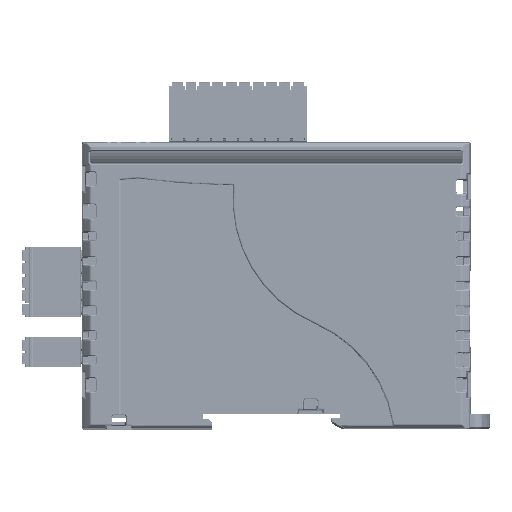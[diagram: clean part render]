
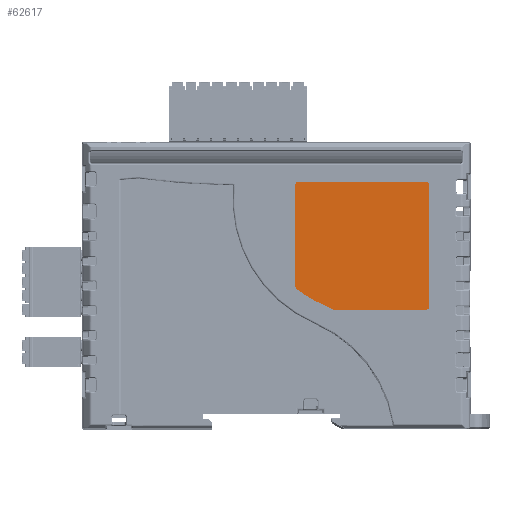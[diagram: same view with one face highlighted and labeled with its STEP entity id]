
A CAD part, front view. The second image highlights one B-rep face of the part: STEP entity #62617.
In plain terms, the highlighted planar face has unit normal (0, -1, 0).
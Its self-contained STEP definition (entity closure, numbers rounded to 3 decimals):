
#29918=DIRECTION('',(-1.,0.,0.));
#29919=VECTOR('',#29918,33.354);
#29920=CARTESIAN_POINT('',(39.177,-16.2,27.174));
#29921=LINE('',#29920,#29919);
#29939=DIRECTION('',(0.,0.,1.));
#29940=VECTOR('',#29939,31.83);
#29941=CARTESIAN_POINT('',(39.974,-16.2,-5.453));
#29942=LINE('',#29941,#29940);
#29960=DIRECTION('',(1.,0.,0.));
#29961=VECTOR('',#29960,23.973);
#29962=CARTESIAN_POINT('',(15.204,-16.2,-6.25));
#29963=LINE('',#29962,#29961);
#30002=DIRECTION('',(0.,0.,-1.));
#30003=VECTOR('',#30002,26.541);
#30004=CARTESIAN_POINT('',(5.026,-16.2,26.377));
#30005=LINE('',#30004,#30003);
#30009=CARTESIAN_POINT('',(5.026,-16.2,26.377));
#30010=CARTESIAN_POINT('',(5.026,-16.2,26.597));
#30011=CARTESIAN_POINT('',(5.104,-16.2,26.785));
#30012=CARTESIAN_POINT('',(5.259,-16.2,26.941));
#30017=CARTESIAN_POINT('',(5.259,-16.2,26.941));
#30018=CARTESIAN_POINT('',(5.415,-16.2,27.096));
#30019=CARTESIAN_POINT('',(5.603,-16.2,27.174));
#30020=CARTESIAN_POINT('',(5.823,-16.2,27.174));
#30025=CARTESIAN_POINT('',(39.177,-16.2,27.174));
#30026=CARTESIAN_POINT('',(39.397,-16.2,27.174));
#30027=CARTESIAN_POINT('',(39.585,-16.2,27.096));
#30028=CARTESIAN_POINT('',(39.741,-16.2,26.941));
#30033=CARTESIAN_POINT('',(39.741,-16.2,26.941));
#30034=CARTESIAN_POINT('',(39.896,-16.2,26.785));
#30035=CARTESIAN_POINT('',(39.974,-16.2,26.597));
#30036=CARTESIAN_POINT('',(39.974,-16.2,26.377));
#30041=CARTESIAN_POINT('',(39.974,-16.2,-5.453));
#30042=CARTESIAN_POINT('',(39.974,-16.2,-5.673));
#30043=CARTESIAN_POINT('',(39.896,-16.2,-5.861));
#30044=CARTESIAN_POINT('',(39.741,-16.2,-6.017));
#30049=CARTESIAN_POINT('',(39.741,-16.2,-6.017));
#30050=CARTESIAN_POINT('',(39.585,-16.2,-6.172));
#30051=CARTESIAN_POINT('',(39.397,-16.2,-6.25));
#30052=CARTESIAN_POINT('',(39.177,-16.2,-6.25));
#30057=CARTESIAN_POINT('',(15.204,-16.2,-5.453));
#30058=DIRECTION('',(0.,1.,0.));
#30059=DIRECTION('',(0.,0.,-1.));
#30060=AXIS2_PLACEMENT_3D('',#30057,#30058,#30059);
#30065=CARTESIAN_POINT('',(-3.758,-16.2,-41.636));
#30066=DIRECTION('',(0.,-1.,0.));
#30067=DIRECTION('',(0.464,0.,0.886));
#30068=AXIS2_PLACEMENT_3D('',#30065,#30066,#30067);
#30073=CARTESIAN_POINT('',(24.023,-16.2,22.67));
#30074=DIRECTION('',(0.,1.,0.));
#30075=DIRECTION('',(-0.397,0.,-0.918));
#30076=AXIS2_PLACEMENT_3D('',#30073,#30074,#30075);
#30081=CARTESIAN_POINT('',(5.823,-16.2,-0.164));
#30082=DIRECTION('',(0.,1.,0.));
#30083=DIRECTION('',(-0.623,0.,-0.782));
#30084=AXIS2_PLACEMENT_3D('',#30081,#30082,#30083);
#34583=CARTESIAN_POINT('',(5.823,-16.2,27.174));
#34584=VERTEX_POINT('',#34583);
#34585=VERTEX_POINT('',#30017);
#34586=VERTEX_POINT('',#30009);
#34587=CARTESIAN_POINT('',(39.177,-16.2,27.174));
#34588=VERTEX_POINT('',#34587);
#34589=CARTESIAN_POINT('',(39.974,-16.2,26.377));
#34590=VERTEX_POINT('',#34589);
#34591=VERTEX_POINT('',#30033);
#34592=CARTESIAN_POINT('',(39.974,-16.2,-5.453));
#34593=VERTEX_POINT('',#34592);
#34594=CARTESIAN_POINT('',(39.177,-16.2,-6.25));
#34595=VERTEX_POINT('',#34594);
#34596=VERTEX_POINT('',#30049);
#34597=CARTESIAN_POINT('',(15.204,-16.2,-6.25));
#34598=VERTEX_POINT('',#34597);
#34599=CARTESIAN_POINT('',(14.834,-16.2,-6.159));
#34600=VERTEX_POINT('',#34599);
#34601=CARTESIAN_POINT('',(12.124,-16.2,-4.866));
#34602=VERTEX_POINT('',#34601);
#34603=CARTESIAN_POINT('',(5.326,-16.2,-0.787));
#34604=VERTEX_POINT('',#34603);
#34605=CARTESIAN_POINT('',(5.026,-16.2,-0.164));
#34606=VERTEX_POINT('',#34605);
#62596=CARTESIAN_POINT('',(0.,-16.2,0.));
#62597=DIRECTION('',(0.,-1.,0.));
#62598=DIRECTION('',(0.,0.,1.));
#62599=AXIS2_PLACEMENT_3D('',#62596,#62597,#62598);
#62600=PLANE('',#62599);
#62601=ORIENTED_EDGE('',*,*,#62438,.T.);
#62602=ORIENTED_EDGE('',*,*,#62436,.T.);
#62603=ORIENTED_EDGE('',*,*,#62453,.F.);
#62604=ORIENTED_EDGE('',*,*,#62473,.T.);
#62605=ORIENTED_EDGE('',*,*,#62471,.T.);
#62606=ORIENTED_EDGE('',*,*,#62487,.F.);
#62607=ORIENTED_EDGE('',*,*,#62507,.T.);
#62608=ORIENTED_EDGE('',*,*,#62505,.T.);
#62609=ORIENTED_EDGE('',*,*,#62521,.F.);
#62610=ORIENTED_EDGE('',*,*,#62535,.T.);
#62611=ORIENTED_EDGE('',*,*,#62549,.T.);
#62612=ORIENTED_EDGE('',*,*,#62563,.T.);
#62613=ORIENTED_EDGE('',*,*,#62577,.T.);
#62614=ORIENTED_EDGE('',*,*,#62590,.F.);
#62615=EDGE_LOOP('',(#62601,#62602,#62603,#62604,#62605,#62606,#62607,#62608,
#62609,#62610,#62611,#62612,#62613,#62614));
#62616=FACE_OUTER_BOUND('',#62615,.F.);
#30013=B_SPLINE_CURVE_WITH_KNOTS('',3,(#30009,#30010,#30011,#30012),
.UNSPECIFIED.,.F.,.F.,(4,4),(0.,1.),.UNSPECIFIED.);
#30021=B_SPLINE_CURVE_WITH_KNOTS('',3,(#30017,#30018,#30019,#30020),
.UNSPECIFIED.,.F.,.F.,(4,4),(0.,1.),.UNSPECIFIED.);
#30029=B_SPLINE_CURVE_WITH_KNOTS('',3,(#30025,#30026,#30027,#30028),
.UNSPECIFIED.,.F.,.F.,(4,4),(0.,1.),.UNSPECIFIED.);
#30037=B_SPLINE_CURVE_WITH_KNOTS('',3,(#30033,#30034,#30035,#30036),
.UNSPECIFIED.,.F.,.F.,(4,4),(0.,1.),.UNSPECIFIED.);
#30045=B_SPLINE_CURVE_WITH_KNOTS('',3,(#30041,#30042,#30043,#30044),
.UNSPECIFIED.,.F.,.F.,(4,4),(0.,1.),.UNSPECIFIED.);
#30053=B_SPLINE_CURVE_WITH_KNOTS('',3,(#30049,#30050,#30051,#30052),
.UNSPECIFIED.,.F.,.F.,(4,4),(0.,1.),.UNSPECIFIED.);
#30061=CIRCLE('',#30060,0.796);
#30069=CIRCLE('',#30068,40.054);
#30077=CIRCLE('',#30076,29.997);
#30085=CIRCLE('',#30084,0.797);
#62436=EDGE_CURVE('',#34585,#34584,#30021,.T.);
#62438=EDGE_CURVE('',#34586,#34585,#30013,.T.);
#62453=EDGE_CURVE('',#34588,#34584,#29921,.T.);
#62471=EDGE_CURVE('',#34591,#34590,#30037,.T.);
#62473=EDGE_CURVE('',#34588,#34591,#30029,.T.);
#62487=EDGE_CURVE('',#34593,#34590,#29942,.T.);
#62505=EDGE_CURVE('',#34596,#34595,#30053,.T.);
#62507=EDGE_CURVE('',#34593,#34596,#30045,.T.);
#62521=EDGE_CURVE('',#34598,#34595,#29963,.T.);
#62535=EDGE_CURVE('',#34598,#34600,#30061,.T.);
#62549=EDGE_CURVE('',#34600,#34602,#30069,.T.);
#62563=EDGE_CURVE('',#34602,#34604,#30077,.T.);
#62577=EDGE_CURVE('',#34604,#34606,#30085,.T.);
#62590=EDGE_CURVE('',#34586,#34606,#30005,.T.);
#62617=ADVANCED_FACE('',(#62616),#62600,.T.);
